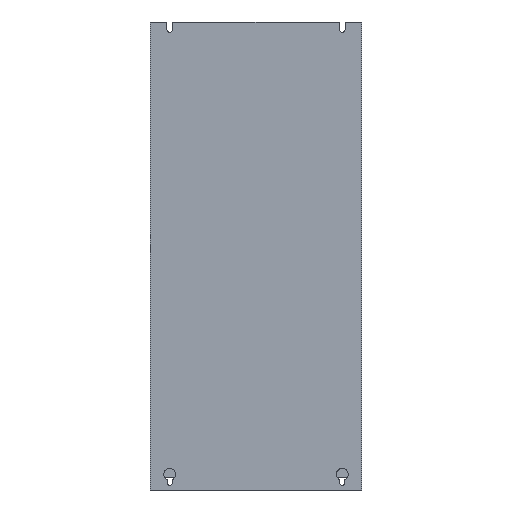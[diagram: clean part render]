
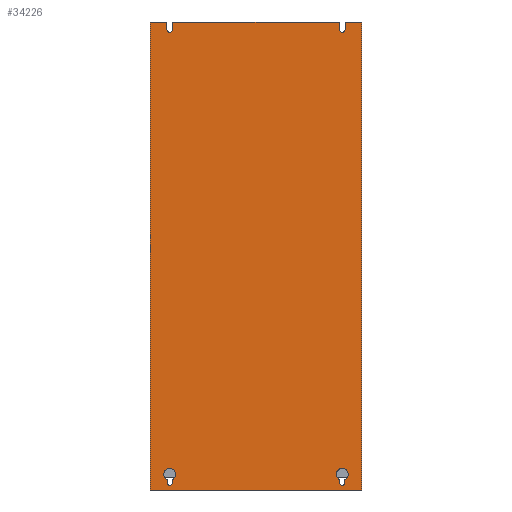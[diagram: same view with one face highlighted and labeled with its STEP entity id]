
A CAD part, front view. The second image highlights one B-rep face of the part: STEP entity #34226.
In plain terms, the highlighted planar face has unit normal (0, -1, 0).
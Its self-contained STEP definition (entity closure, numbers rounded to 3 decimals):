
#20877=CARTESIAN_POINT('',(40.,0.,935.));
#20878=DIRECTION('',(0.,-1.,0.));
#20879=DIRECTION('',(-1.,0.,0.));
#20880=AXIS2_PLACEMENT_3D('',#20877,#20878,#20879);
#20882=CARTESIAN_POINT('',(390.,0.,935.));
#20883=DIRECTION('',(0.,-1.,0.));
#20884=DIRECTION('',(-1.,0.,0.));
#20885=AXIS2_PLACEMENT_3D('',#20882,#20883,#20884);
#20887=CARTESIAN_POINT('',(390.,0.,15.));
#20888=DIRECTION('',(0.,-1.,0.));
#20889=DIRECTION('',(-1.,0.,0.));
#20890=AXIS2_PLACEMENT_3D('',#20887,#20888,#20889);
#20892=CARTESIAN_POINT('',(390.,0.,32.));
#20893=DIRECTION('',(0.,-1.,0.));
#20894=DIRECTION('',(0.458,0.,-0.889));
#20895=AXIS2_PLACEMENT_3D('',#20892,#20893,#20894);
#20897=CARTESIAN_POINT('',(390.,0.,32.));
#20898=DIRECTION('',(0.,-1.,0.));
#20899=DIRECTION('',(1.,0.,0.));
#20900=AXIS2_PLACEMENT_3D('',#20897,#20898,#20899);
#20902=CARTESIAN_POINT('',(390.,0.,32.));
#20903=DIRECTION('',(0.,-1.,0.));
#20904=DIRECTION('',(-0.458,0.,0.889));
#20905=AXIS2_PLACEMENT_3D('',#20902,#20903,#20904);
#20907=CARTESIAN_POINT('',(390.,0.,32.));
#20908=DIRECTION('',(0.,-1.,0.));
#20909=DIRECTION('',(-1.,0.,0.));
#20910=AXIS2_PLACEMENT_3D('',#20907,#20908,#20909);
#20912=CARTESIAN_POINT('',(40.,0.,32.));
#20913=DIRECTION('',(0.,-1.,0.));
#20914=DIRECTION('',(0.458,0.,-0.889));
#20915=AXIS2_PLACEMENT_3D('',#20912,#20913,#20914);
#20917=CARTESIAN_POINT('',(40.,0.,32.));
#20918=DIRECTION('',(0.,-1.,0.));
#20919=DIRECTION('',(1.,0.,0.));
#20920=AXIS2_PLACEMENT_3D('',#20917,#20918,#20919);
#20922=CARTESIAN_POINT('',(40.,0.,32.));
#20923=DIRECTION('',(0.,-1.,0.));
#20924=DIRECTION('',(-0.458,0.,0.889));
#20925=AXIS2_PLACEMENT_3D('',#20922,#20923,#20924);
#20927=CARTESIAN_POINT('',(40.,0.,32.));
#20928=DIRECTION('',(0.,-1.,0.));
#20929=DIRECTION('',(-1.,0.,0.));
#20930=AXIS2_PLACEMENT_3D('',#20927,#20928,#20929);
#20932=CARTESIAN_POINT('',(40.,0.,15.));
#20933=DIRECTION('',(0.,-1.,0.));
#20934=DIRECTION('',(-1.,0.,0.));
#20935=AXIS2_PLACEMENT_3D('',#20932,#20933,#20934);
#20937=DIRECTION('',(0.,0.,1.));
#20938=VECTOR('',#20937,950.);
#20939=CARTESIAN_POINT('',(430.,0.,0.));
#20940=LINE('',#20939,#20938);
#20973=DIRECTION('',(1.,0.,0.));
#20974=VECTOR('',#20973,430.);
#20975=CARTESIAN_POINT('',(0.,0.,0.));
#20976=LINE('',#20975,#20974);
#26533=DIRECTION('',(0.,0.,-1.));
#26534=VECTOR('',#26533,950.);
#26535=CARTESIAN_POINT('',(0.,0.,950.));
#26536=LINE('',#26535,#26534);
#26705=DIRECTION('',(0.,0.,1.));
#26706=VECTOR('',#26705,6.335);
#26707=CARTESIAN_POINT('',(384.5,0.,15.));
#26708=LINE('',#26707,#26706);
#26721=DIRECTION('',(0.,0.,-1.));
#26722=VECTOR('',#26721,6.335);
#26723=CARTESIAN_POINT('',(395.5,0.,21.335));
#26724=LINE('',#26723,#26722);
#26729=DIRECTION('',(0.,0.,-1.));
#26730=VECTOR('',#26729,6.335);
#26731=CARTESIAN_POINT('',(45.5,0.,21.335));
#26732=LINE('',#26731,#26730);
#26745=DIRECTION('',(0.,0.,1.));
#26746=VECTOR('',#26745,6.335);
#26747=CARTESIAN_POINT('',(34.5,0.,15.));
#26748=LINE('',#26747,#26746);
#26803=DIRECTION('',(-1.,0.,0.));
#26804=VECTOR('',#26803,34.25);
#26805=CARTESIAN_POINT('',(34.25,0.,950.));
#26806=LINE('',#26805,#26804);
#26823=DIRECTION('',(0.,0.,1.));
#26824=VECTOR('',#26823,15.);
#26825=CARTESIAN_POINT('',(34.25,0.,935.));
#26826=LINE('',#26825,#26824);
#26843=DIRECTION('',(0.,0.,-1.));
#26844=VECTOR('',#26843,15.);
#26845=CARTESIAN_POINT('',(45.75,0.,950.));
#26846=LINE('',#26845,#26844);
#26851=DIRECTION('',(-1.,0.,0.));
#26852=VECTOR('',#26851,338.5);
#26853=CARTESIAN_POINT('',(384.25,0.,950.));
#26854=LINE('',#26853,#26852);
#26863=DIRECTION('',(0.,0.,1.));
#26864=VECTOR('',#26863,15.);
#26865=CARTESIAN_POINT('',(384.25,0.,935.));
#26866=LINE('',#26865,#26864);
#27686=DIRECTION('',(-1.,0.,0.));
#27687=VECTOR('',#27686,34.25);
#27688=CARTESIAN_POINT('',(430.,0.,950.));
#27689=LINE('',#27688,#27687);
#27690=DIRECTION('',(0.,0.,-1.));
#27691=VECTOR('',#27690,15.);
#27692=CARTESIAN_POINT('',(395.75,0.,950.));
#27693=LINE('',#27692,#27691);
#30430=CARTESIAN_POINT('',(384.25,0.,935.));
#30431=CARTESIAN_POINT('',(395.75,0.,935.));
#30432=VERTEX_POINT('',#30430);
#30433=VERTEX_POINT('',#30431);
#30434=CARTESIAN_POINT('',(430.,0.,0.));
#30435=CARTESIAN_POINT('',(430.,0.,950.));
#30436=VERTEX_POINT('',#30434);
#30437=VERTEX_POINT('',#30435);
#30438=CARTESIAN_POINT('',(0.,0.,0.));
#30439=VERTEX_POINT('',#30438);
#30440=CARTESIAN_POINT('',(0.,0.,950.));
#30441=VERTEX_POINT('',#30440);
#30442=CARTESIAN_POINT('',(34.25,0.,950.));
#30443=VERTEX_POINT('',#30442);
#30444=CARTESIAN_POINT('',(34.25,0.,935.));
#30445=VERTEX_POINT('',#30444);
#30446=CARTESIAN_POINT('',(45.75,0.,935.));
#30447=VERTEX_POINT('',#30446);
#30448=CARTESIAN_POINT('',(45.75,0.,950.));
#30449=VERTEX_POINT('',#30448);
#30450=CARTESIAN_POINT('',(384.25,0.,950.));
#30451=VERTEX_POINT('',#30450);
#30452=CARTESIAN_POINT('',(395.75,0.,950.));
#30453=VERTEX_POINT('',#30452);
#30454=CARTESIAN_POINT('',(384.5,0.,15.));
#30455=CARTESIAN_POINT('',(395.5,0.,15.));
#30456=VERTEX_POINT('',#30454);
#30457=VERTEX_POINT('',#30455);
#30458=CARTESIAN_POINT('',(395.5,0.,21.335));
#30459=VERTEX_POINT('',#30458);
#30460=CARTESIAN_POINT('',(402.,0.,32.));
#30461=VERTEX_POINT('',#30460);
#30462=CARTESIAN_POINT('',(384.5,0.,42.665));
#30463=VERTEX_POINT('',#30462);
#30464=CARTESIAN_POINT('',(378.,0.,32.));
#30465=VERTEX_POINT('',#30464);
#30466=CARTESIAN_POINT('',(384.5,0.,21.335));
#30467=VERTEX_POINT('',#30466);
#30468=CARTESIAN_POINT('',(45.5,0.,21.335));
#30469=CARTESIAN_POINT('',(45.5,0.,15.));
#30470=VERTEX_POINT('',#30468);
#30471=VERTEX_POINT('',#30469);
#30472=CARTESIAN_POINT('',(52.,0.,32.));
#30473=VERTEX_POINT('',#30472);
#30474=CARTESIAN_POINT('',(34.5,0.,42.665));
#30475=VERTEX_POINT('',#30474);
#30476=CARTESIAN_POINT('',(28.,0.,32.));
#30477=VERTEX_POINT('',#30476);
#30478=CARTESIAN_POINT('',(34.5,0.,21.335));
#30479=VERTEX_POINT('',#30478);
#30480=CARTESIAN_POINT('',(34.5,0.,15.));
#30481=VERTEX_POINT('',#30480);
#34164=CARTESIAN_POINT('',(215.,0.,475.));
#34165=DIRECTION('',(0.,1.,0.));
#34166=DIRECTION('',(-1.,0.,0.));
#34167=AXIS2_PLACEMENT_3D('',#34164,#34165,#34166);
#34168=PLANE('',#34167);
#34170=ORIENTED_EDGE('',*,*,#34169,.F.);
#34172=ORIENTED_EDGE('',*,*,#34171,.F.);
#34174=ORIENTED_EDGE('',*,*,#34173,.F.);
#34176=ORIENTED_EDGE('',*,*,#34175,.F.);
#34178=ORIENTED_EDGE('',*,*,#34177,.F.);
#34180=ORIENTED_EDGE('',*,*,#34179,.T.);
#34182=ORIENTED_EDGE('',*,*,#34181,.F.);
#34184=ORIENTED_EDGE('',*,*,#34183,.F.);
#34186=ORIENTED_EDGE('',*,*,#34185,.F.);
#34187=ORIENTED_EDGE('',*,*,#34154,.T.);
#34189=ORIENTED_EDGE('',*,*,#34188,.F.);
#34191=ORIENTED_EDGE('',*,*,#34190,.F.);
#34192=EDGE_LOOP('',(#34170,#34172,#34174,#34176,#34178,#34180,#34182,#34184,
#34186,#34187,#34189,#34191));
#34193=FACE_OUTER_BOUND('',#34192,.F.);
#34195=ORIENTED_EDGE('',*,*,#34194,.T.);
#34197=ORIENTED_EDGE('',*,*,#34196,.F.);
#34199=ORIENTED_EDGE('',*,*,#34198,.T.);
#34201=ORIENTED_EDGE('',*,*,#34200,.T.);
#34203=ORIENTED_EDGE('',*,*,#34202,.T.);
#34205=ORIENTED_EDGE('',*,*,#34204,.T.);
#34207=ORIENTED_EDGE('',*,*,#34206,.F.);
#34208=EDGE_LOOP('',(#34195,#34197,#34199,#34201,#34203,#34205,#34207));
#34209=FACE_BOUND('',#34208,.F.);
#34211=ORIENTED_EDGE('',*,*,#34210,.F.);
#34213=ORIENTED_EDGE('',*,*,#34212,.T.);
#34215=ORIENTED_EDGE('',*,*,#34214,.T.);
#34217=ORIENTED_EDGE('',*,*,#34216,.T.);
#34219=ORIENTED_EDGE('',*,*,#34218,.T.);
#34221=ORIENTED_EDGE('',*,*,#34220,.F.);
#34223=ORIENTED_EDGE('',*,*,#34222,.T.);
#34224=EDGE_LOOP('',(#34211,#34213,#34215,#34217,#34219,#34221,#34223));
#34225=FACE_BOUND('',#34224,.F.);
#20881=CIRCLE('',#20880,5.75);
#20886=CIRCLE('',#20885,5.75);
#20891=CIRCLE('',#20890,5.5);
#20896=CIRCLE('',#20895,12.);
#20901=CIRCLE('',#20900,12.);
#20906=CIRCLE('',#20905,12.);
#20911=CIRCLE('',#20910,12.);
#20916=CIRCLE('',#20915,12.);
#20921=CIRCLE('',#20920,12.);
#20926=CIRCLE('',#20925,12.);
#20931=CIRCLE('',#20930,12.);
#20936=CIRCLE('',#20935,5.5);
#34154=EDGE_CURVE('',#30432,#30433,#20886,.T.);
#34169=EDGE_CURVE('',#30436,#30437,#20940,.T.);
#34171=EDGE_CURVE('',#30439,#30436,#20976,.T.);
#34173=EDGE_CURVE('',#30441,#30439,#26536,.T.);
#34175=EDGE_CURVE('',#30443,#30441,#26806,.T.);
#34177=EDGE_CURVE('',#30445,#30443,#26826,.T.);
#34179=EDGE_CURVE('',#30445,#30447,#20881,.T.);
#34181=EDGE_CURVE('',#30449,#30447,#26846,.T.);
#34183=EDGE_CURVE('',#30451,#30449,#26854,.T.);
#34185=EDGE_CURVE('',#30432,#30451,#26866,.T.);
#34188=EDGE_CURVE('',#30453,#30433,#27693,.T.);
#34190=EDGE_CURVE('',#30437,#30453,#27689,.T.);
#34194=EDGE_CURVE('',#30456,#30457,#20891,.T.);
#34196=EDGE_CURVE('',#30459,#30457,#26724,.T.);
#34198=EDGE_CURVE('',#30459,#30461,#20896,.T.);
#34200=EDGE_CURVE('',#30461,#30463,#20901,.T.);
#34202=EDGE_CURVE('',#30463,#30465,#20906,.T.);
#34204=EDGE_CURVE('',#30465,#30467,#20911,.T.);
#34206=EDGE_CURVE('',#30456,#30467,#26708,.T.);
#34210=EDGE_CURVE('',#30470,#30471,#26732,.T.);
#34212=EDGE_CURVE('',#30470,#30473,#20916,.T.);
#34214=EDGE_CURVE('',#30473,#30475,#20921,.T.);
#34216=EDGE_CURVE('',#30475,#30477,#20926,.T.);
#34218=EDGE_CURVE('',#30477,#30479,#20931,.T.);
#34220=EDGE_CURVE('',#30481,#30479,#26748,.T.);
#34222=EDGE_CURVE('',#30481,#30471,#20936,.T.);
#34226=ADVANCED_FACE('',(#34193,#34209,#34225),#34168,.F.);
